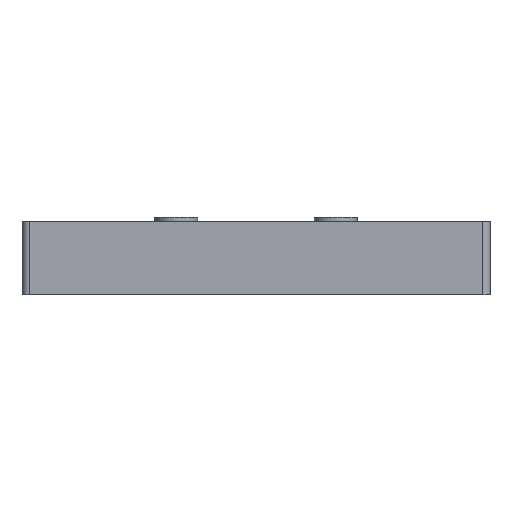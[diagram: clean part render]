
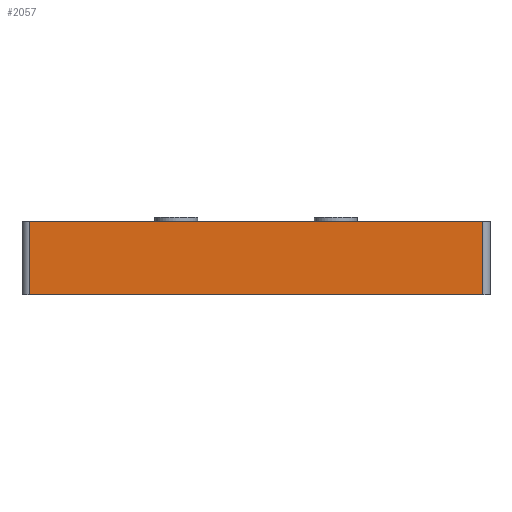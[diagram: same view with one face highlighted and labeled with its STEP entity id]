
A CAD part, front view. The second image highlights one B-rep face of the part: STEP entity #2057.
In plain terms, the highlighted planar face has unit normal (0, -1, 0).
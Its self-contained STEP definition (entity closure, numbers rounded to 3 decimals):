
#55 = DIRECTION ( 'NONE',  ( 1., 0., 0. ) ) ;
#78 = CARTESIAN_POINT ( 'NONE',  ( 32., 0., -10. ) ) ;
#85 = PLANE ( 'NONE',  #2456 ) ;
#91 = DIRECTION ( 'NONE',  ( 0., 0., -1. ) ) ;
#100 = DIRECTION ( 'NONE',  ( 1., 0., 0. ) ) ;
#116 = CARTESIAN_POINT ( 'NONE',  ( 31., 0., -10. ) ) ;
#127 = CARTESIAN_POINT ( 'NONE',  ( 32., 0., -10. ) ) ;
#134 = DIRECTION ( 'NONE',  ( 0., -1., 0. ) ) ;
#143 = CARTESIAN_POINT ( 'NONE',  ( -31., 0., -10. ) ) ;
#474 = CARTESIAN_POINT ( 'NONE',  ( 0., 0., 0. ) ) ;
#630 = DIRECTION ( 'NONE',  ( 0., 0., -1. ) ) ;
#638 = DIRECTION ( 'NONE',  ( 0., 0., 1. ) ) ;
#816 = ORIENTED_EDGE ( 'NONE', *, *, #2299, .T. ) ;
#950 = LINE ( 'NONE', #474, #1158 ) ;
#963 = ORIENTED_EDGE ( 'NONE', *, *, #2561, .T. ) ;
#1116 = LINE ( 'NONE', #127, #1380 ) ;
#1158 = VECTOR ( 'NONE', #55, 1000. ) ;
#1241 = EDGE_LOOP ( 'NONE', ( #963, #816, #1564, #1558 ) ) ;
#1324 = FACE_OUTER_BOUND ( 'NONE', #1241, .T. ) ;
#1380 = VECTOR ( 'NONE', #100, 1000. ) ;
#1558 = ORIENTED_EDGE ( 'NONE', *, *, #2330, .F. ) ;
#1564 = ORIENTED_EDGE ( 'NONE', *, *, #2565, .T. ) ;
#1720 = VERTEX_POINT ( 'NONE', #1926 ) ;
#1724 = VERTEX_POINT ( 'NONE', #1979 ) ;
#1737 = VERTEX_POINT ( 'NONE', #1872 ) ;
#1784 = CARTESIAN_POINT ( 'NONE',  ( 31., 0., 0. ) ) ;
#1872 = CARTESIAN_POINT ( 'NONE',  ( -31., 0., 0. ) ) ;
#1926 = CARTESIAN_POINT ( 'NONE',  ( -31., 0., -10. ) ) ;
#1965 = VERTEX_POINT ( 'NONE', #1784 ) ;
#1979 = CARTESIAN_POINT ( 'NONE',  ( 31., 0., -10. ) ) ;
#2057 = ADVANCED_FACE ( 'NONE', ( #1324 ), #85, .T. ) ;
#2081 = VECTOR ( 'NONE', #638, 1000. ) ;
#2107 = LINE ( 'NONE', #116, #2081 ) ;
#2120 = VECTOR ( 'NONE', #630, 1000. ) ;
#2165 = LINE ( 'NONE', #143, #2120 ) ;
#2299 = EDGE_CURVE ( 'NONE', #1720, #1724, #1116, .T. ) ;
#2330 = EDGE_CURVE ( 'NONE', #1737, #1965, #950, .T. ) ;
#2456 = AXIS2_PLACEMENT_3D ( 'NONE', #78, #134, #91 ) ;
#2561 = EDGE_CURVE ( 'NONE', #1737, #1720, #2165, .T. ) ;
#2565 = EDGE_CURVE ( 'NONE', #1724, #1965, #2107, .T. ) ;
